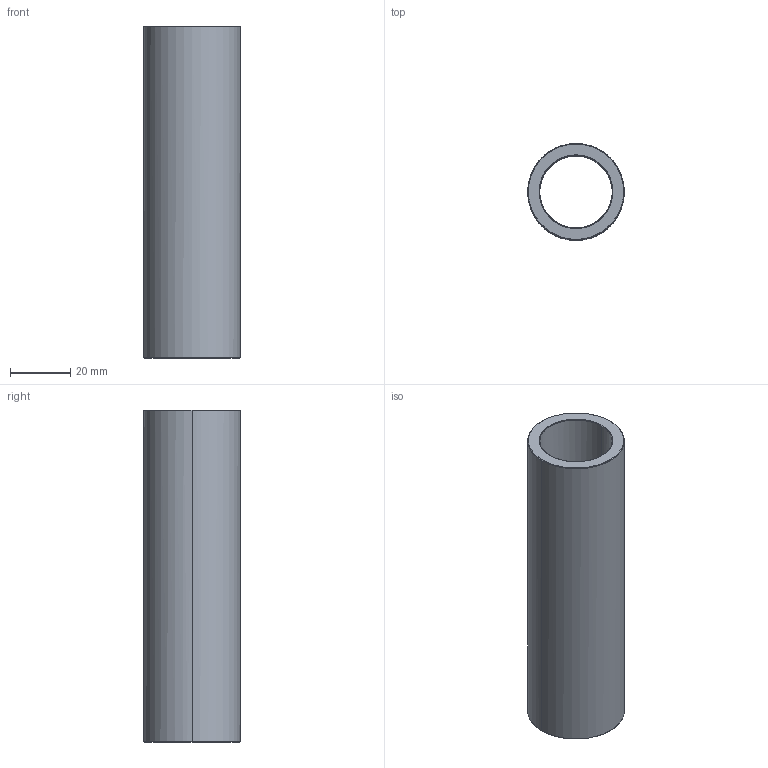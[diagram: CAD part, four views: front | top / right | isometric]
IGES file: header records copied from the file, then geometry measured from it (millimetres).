
Start section: Write IGES format                                    datakit 2008 (c)
Global section: file name: Unknown; native system: DATAKIT Converter; preprocessor: Unknown; author: Unknown; organization: Unknown; date: 950613.180003; units: millimetre
Bounding box: 32 x 32 x 110 mm (x, y, z)
Surface area: 20014.7 mm2 (no closed solid volume)
Topology: 0 solids, 0 shells, 14 faces, 56 edges, 56 vertices
Faces by surface type: revolution 12, bspline 2
